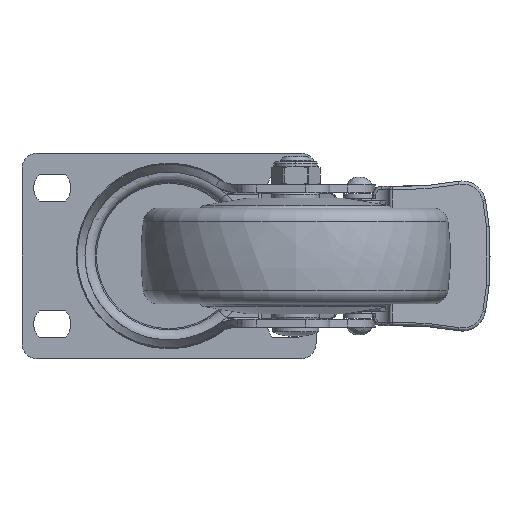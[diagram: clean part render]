
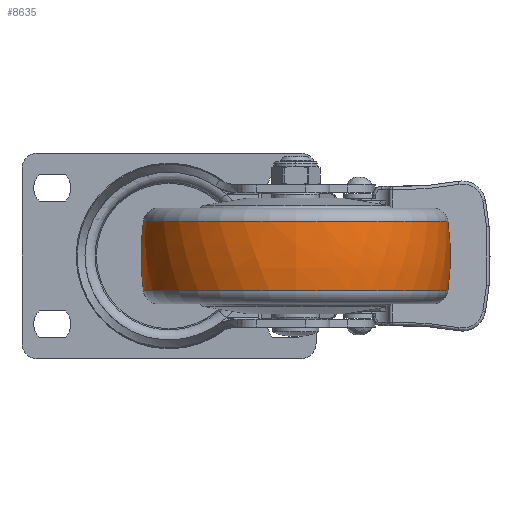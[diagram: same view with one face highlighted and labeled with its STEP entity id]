
A CAD part, front view. The second image highlights one B-rep face of the part: STEP entity #8635.
In plain terms, the highlighted free-form (B-spline) face has degree [3, 3] with [7, 4] control points.
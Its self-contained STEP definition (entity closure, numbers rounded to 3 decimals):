
#7946=CARTESIAN_POINT('',(-11.2,0.,0.));
#7947=DIRECTION('',(-1.,0.,0.));
#7948=DIRECTION('',(0.,1.,0.));
#7949=AXIS2_PLACEMENT_3D('',#7946,#7947,#7948);
#7961=CARTESIAN_POINT('',(0.,-30.,0.));
#7962=DIRECTION('',(0.,0.,1.));
#7963=DIRECTION('',(0.14,0.99,0.));
#7964=AXIS2_PLACEMENT_3D('',#7961,#7962,#7963);
#7966=CARTESIAN_POINT('',(0.,30.,0.));
#7967=DIRECTION('',(0.,0.,-1.));
#7968=DIRECTION('',(0.14,-0.99,0.));
#7969=AXIS2_PLACEMENT_3D('',#7966,#7967,#7968);
#7971=CARTESIAN_POINT('',(11.2,0.,0.));
#7972=DIRECTION('',(-1.,0.,0.));
#7973=DIRECTION('',(0.,1.,0.));
#7974=AXIS2_PLACEMENT_3D('',#7971,#7972,#7973);
#8209=CARTESIAN_POINT('',(11.2,49.212,0.));
#8211=VERTEX_POINT('',#8209);
#8212=CARTESIAN_POINT('',(-11.2,49.212,0.));
#8213=VERTEX_POINT('',#8212);
#8257=CARTESIAN_POINT('',(11.2,-49.212,
0.));
#8259=VERTEX_POINT('',#8257);
#8260=CARTESIAN_POINT('',(-11.2,-49.212,
0.));
#8261=VERTEX_POINT('',#8260);
#8599=CARTESIAN_POINT('',(-11.645,-49.051,
3.086));
#8600=CARTESIAN_POINT('',(-3.909,-50.187,
3.157));
#8601=CARTESIAN_POINT('',(3.909,-50.187,3.157));
#8602=CARTESIAN_POINT('',(11.645,-49.051,3.086));
#8603=CARTESIAN_POINT('',(-11.645,-50.95,
-27.1));
#8604=CARTESIAN_POINT('',(-3.909,-52.13,
-27.727));
#8605=CARTESIAN_POINT('',(3.909,-52.13,
-27.727));
#8606=CARTESIAN_POINT('',(11.645,-50.95,
-27.1));
#8607=CARTESIAN_POINT('',(-11.645,-30.246,
-49.148));
#8608=CARTESIAN_POINT('',(-3.909,-30.946,
-50.286));
#8609=CARTESIAN_POINT('',(3.909,-30.946,
-50.286));
#8610=CARTESIAN_POINT('',(11.645,-30.246,
-49.148));
#8611=CARTESIAN_POINT('',(-11.645,0.,
-49.148));
#8612=CARTESIAN_POINT('',(-3.909,0.,
-50.286));
#8613=CARTESIAN_POINT('',(3.909,0.,-50.286));
#8614=CARTESIAN_POINT('',(11.645,0.,
-49.148));
#8615=CARTESIAN_POINT('',(-11.645,30.246,
-49.148));
#8616=CARTESIAN_POINT('',(-3.909,30.946,
-50.286));
#8617=CARTESIAN_POINT('',(3.909,30.946,-50.286));
#8618=CARTESIAN_POINT('',(11.645,30.246,-49.148));
#8619=CARTESIAN_POINT('',(-11.645,50.95,
-27.1));
#8620=CARTESIAN_POINT('',(-3.909,52.13,
-27.727));
#8621=CARTESIAN_POINT('',(3.909,52.13,-27.727));
#8622=CARTESIAN_POINT('',(11.645,50.95,-27.1));
#8623=CARTESIAN_POINT('',(-11.645,49.051,3.086));
#8624=CARTESIAN_POINT('',(-3.909,50.187,3.157));
#8625=CARTESIAN_POINT('',(3.909,50.187,3.157));
#8626=CARTESIAN_POINT('',(11.645,49.051,3.086));
#8627=(BOUNDED_SURFACE()B_SPLINE_SURFACE(3,3,((#8599,#8600,#8601,#8602),(#8603,
#8604,#8605,#8606),(#8607,#8608,#8609,#8610),(#8611,#8612,#8613,#8614),(#8615,
#8616,#8617,#8618),(#8619,#8620,#8621,#8622),(#8623,#8624,#8625,#8626)),
.UNSPECIFIED.,.F.,.F.,.F.)B_SPLINE_SURFACE_WITH_KNOTS((4,3,4),(4,4),(0.,1.,
2.),(0.,1.),.UNSPECIFIED.)GEOMETRIC_REPRESENTATION_ITEM()RATIONAL_B_SPLINE_SURFACE(((1.194,1.185,1.185,1.194),(
0.943,0.936,0.936,0.943),(
0.943,0.936,0.936,0.943),(
1.194,1.185,1.185,1.194),(
0.943,0.936,0.936,0.943),(
0.943,0.936,0.936,0.943),(
1.194,1.185,1.185,1.194)))REPRESENTATION_ITEM('')SURFACE());
#8628=ORIENTED_EDGE('',*,*,#8589,.T.);
#8629=ORIENTED_EDGE('',*,*,#8542,.T.);
#8630=ORIENTED_EDGE('',*,*,#8593,.F.);
#8632=ORIENTED_EDGE('',*,*,#8631,.F.);
#8633=EDGE_LOOP('',(#8628,#8629,#8630,#8632));
#8634=FACE_OUTER_BOUND('',#8633,.F.);
#7950=CIRCLE('',#7949,49.212);
#7965=CIRCLE('',#7964,80.);
#7970=CIRCLE('',#7969,80.);
#7975=CIRCLE('',#7974,49.212);
#8542=EDGE_CURVE('',#8213,#8261,#7950,.T.);
#8589=EDGE_CURVE('',#8211,#8213,#7965,.T.);
#8593=EDGE_CURVE('',#8259,#8261,#7970,.T.);
#8631=EDGE_CURVE('',#8211,#8259,#7975,.T.);
#8635=ADVANCED_FACE('',(#8634),#8627,.T.);
